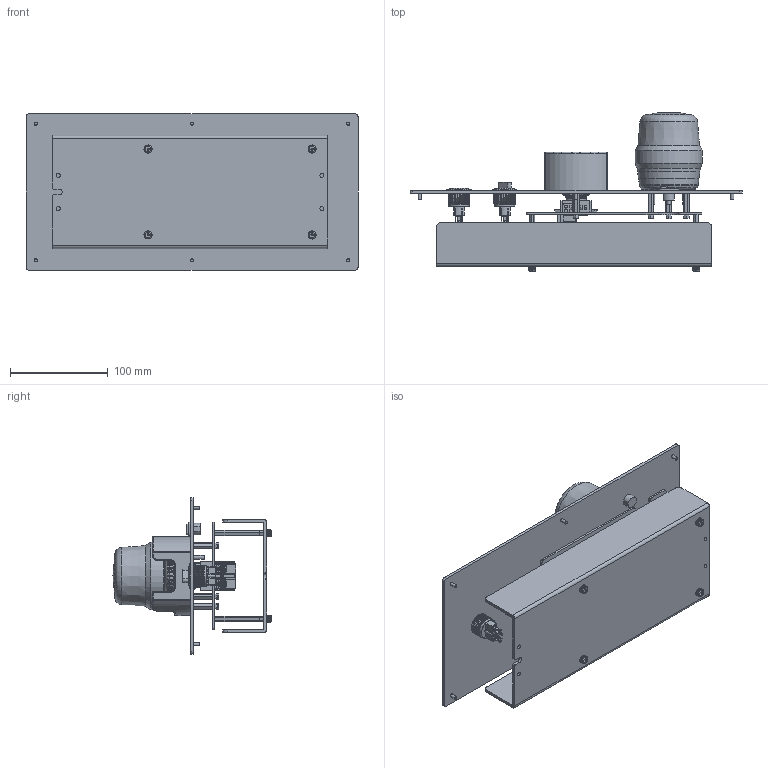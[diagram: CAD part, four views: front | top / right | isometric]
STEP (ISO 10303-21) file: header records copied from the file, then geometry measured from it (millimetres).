
FILE_DESCRIPTION(/* description */ ('','CAx-IF Rec.Pracs.---Representation and Presentation of Product Manufacturing Information (PMI)---4.0---2014-10-13'),/* implementation_level */ '2;1');
FILE_NAME(/* name */ 'G:\06_WPT_고객용 도면\[ Charging Station ]\2022~ [고객용]\2022.07.14_TWC-TX-STA-PNL.stp',/* time_stamp */ '2022-07-14T17:37:54+09:00',/* author */ ('jjang'),/* organization */ (''),/* preprocessor_version */ 'ST-DEVELOPER v18.1',/* originating_system */ 'Autodesk Inventor 2021',/* authorisation */ '');
FILE_SCHEMA (('AP242_MANAGED_MODEL_BASED_3D_ENGINEERING_MIM_LF { 1 0 10303 442 1 1 4 }'));
Products named in the file (1): 조작반_Shrinkwrap_1
Bounding box: 340 x 161.87 x 160 mm (x, y, z)
Volume: 724521.6 mm3; surface area: 330535.1 mm2
Topology: 7 solids, 7 shells, 5584 faces, 15410 edges, 10234 vertices
Faces by surface type: plane 3133, bspline 1390, cylinder 768, torus 168, cone 114, sphere 11
Full cylindrical faces by diameter (mm): 1.5 x1, 2.8 x26, 3 x16, 3.2 x25, 3.25 x6, 3.4 x2, 4 x15, 4.2 x9, 5.7 x6, 7 x2, 7.084 x4, 7.8 x4, 13.5 x4, 14 x1, 18.2 x4, 19.3 x1, 21 x2, 21.2 x1, 21.3 x3, 22 x30, 22.5 x1, 25 x2, 31.5 x1, 34.8 x1, 40.1 x1, 68.862 x1
Entity records: 219252 total; most frequent: CARTESIAN_POINT 81082, ORIENTED_EDGE 30820, DIRECTION 21980, EDGE_CURVE 15410, VERTEX_POINT 10234, LINE 9388, VECTOR 9388, AXIS2_PLACEMENT_3D 6296
